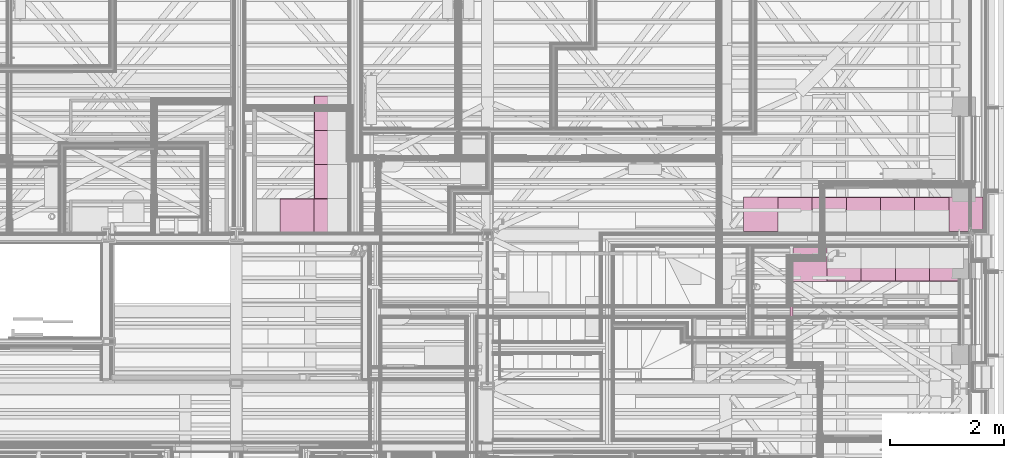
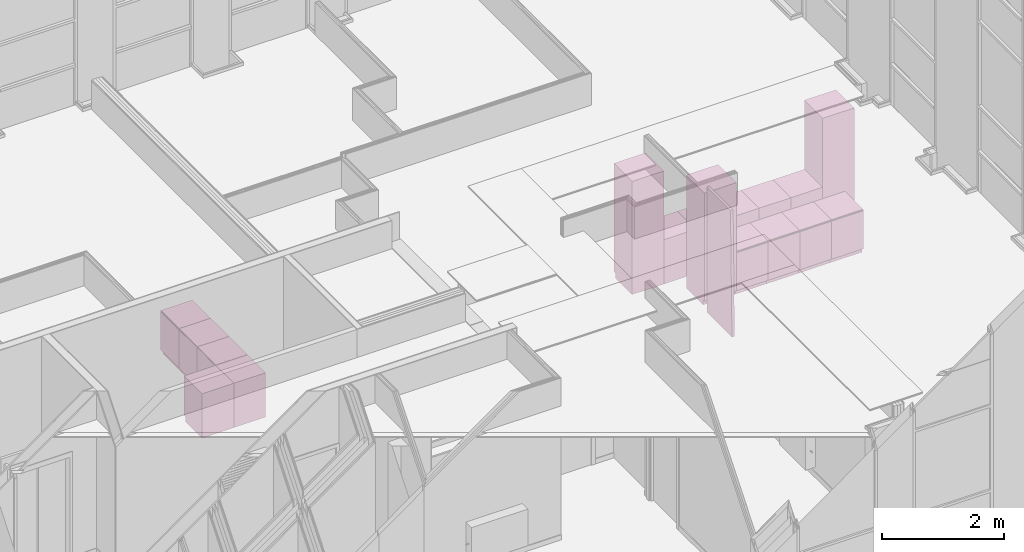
# One storey, part 182 of 183: 18 furnishings.
"""IFC2X3 building model written with IfcOpenShell, lengths in metres."""

from ifc_helpers import new_model, entity, si_unit, converted_unit, derived_unit, money_unit, direction, frame, origin_with_axes, place, context, subcontext, project, spatial, faceted_brep, material, type_object, element, save


model = new_model("IFC2X3")

# Units and contexts
model_context = context("Model", 3, precision=1e-05, world=origin_with_axes(), true_north=direction((0.0, 1.0)))
body_context = subcontext(model_context, "Body", "Model", "MODEL_VIEW", scale=1.0)
ifc_project = project(units=[si_unit("LENGTHUNIT", "METRE"), si_unit("AREAUNIT", "SQUARE_METRE"), si_unit("VOLUMEUNIT", "CUBIC_METRE"), si_unit("ABSORBEDDOSEUNIT", "GRAY"), si_unit("AMOUNTOFSUBSTANCEUNIT", "MOLE"), si_unit("DOSEEQUIVALENTUNIT", "SIEVERT"), si_unit("ELECTRICCAPACITANCEUNIT", "FARAD"), si_unit("ELECTRICCHARGEUNIT", "COULOMB"), si_unit("ELECTRICCONDUCTANCEUNIT", "SIEMENS"), si_unit("ELECTRICCURRENTUNIT", "AMPERE"), si_unit("ELECTRICRESISTANCEUNIT", "OHM"), si_unit("ELECTRICVOLTAGEUNIT", "VOLT"), si_unit("ENERGYUNIT", "JOULE"), si_unit("FORCEUNIT", "NEWTON"), si_unit("FREQUENCYUNIT", "HERTZ"), si_unit("ILLUMINANCEUNIT", "LUX"), si_unit("INDUCTANCEUNIT", "HENRY"), si_unit("LUMINOUSFLUXUNIT", "LUMEN"), si_unit("LUMINOUSINTENSITYUNIT", "CANDELA"), si_unit("MAGNETICFLUXDENSITYUNIT", "TESLA"), si_unit("MAGNETICFLUXUNIT", "WEBER"), si_unit("MASSUNIT", "GRAM"), converted_unit("PLANEANGLEUNIT", "degree", entity("IfcReal", 0.0174532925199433), si_unit("PLANEANGLEUNIT", "RADIAN"), dimensions=[0, 0, 0, 0, 0, 0, 0]), si_unit("POWERUNIT", "WATT"), si_unit("PRESSUREUNIT", "PASCAL"), si_unit("RADIOACTIVITYUNIT", "BECQUEREL"), si_unit("SOLIDANGLEUNIT", "STERADIAN"), si_unit("THERMODYNAMICTEMPERATUREUNIT", "KELVIN"), si_unit("TIMEUNIT", "SECOND"), derived_unit("ACCELERATIONUNIT", [(si_unit("LENGTHUNIT", "METRE"), 1), (si_unit("TIMEUNIT", "SECOND"), -2)]), derived_unit("ANGULARVELOCITYUNIT", [(converted_unit("PLANEANGLEUNIT", "degree", entity("IfcReal", 0.0174532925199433), si_unit("PLANEANGLEUNIT", "RADIAN"), dimensions=[0, 0, 0, 0, 0, 0, 0]), 1), (si_unit("TIMEUNIT", "SECOND"), -1)]), derived_unit("CURVATUREUNIT", [(converted_unit("PLANEANGLEUNIT", "degree", entity("IfcReal", 0.0174532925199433), si_unit("PLANEANGLEUNIT", "RADIAN"), dimensions=[0, 0, 0, 0, 0, 0, 0]), 1), (si_unit("LENGTHUNIT", "METRE"), -1)]), derived_unit("DYNAMICVISCOSITYUNIT", [(si_unit("PRESSUREUNIT", "PASCAL"), 1), (si_unit("TIMEUNIT", "SECOND"), 1)]), derived_unit("HEATFLUXDENSITYUNIT", [(si_unit("POWERUNIT", "WATT"), 1), (si_unit("LENGTHUNIT", "METRE"), -2)]), derived_unit("HEATINGVALUEUNIT", [(si_unit("ENERGYUNIT", "JOULE"), 1), (si_unit("MASSUNIT", "GRAM"), -1)]), derived_unit("INTEGERCOUNTRATEUNIT", [(si_unit("TIMEUNIT", "SECOND"), -1)]), derived_unit("IONCONCENTRATIONUNIT", [(si_unit("MASSUNIT", "GRAM"), 1), (si_unit("VOLUMEUNIT", "CUBIC_METRE"), -1)]), derived_unit("ISOTHERMALMOISTURECAPACITYUNIT", [(si_unit("VOLUMEUNIT", "CUBIC_METRE"), 1), (si_unit("MASSUNIT", "GRAM"), -1)]), derived_unit("KINEMATICVISCOSITYUNIT", [(si_unit("AREAUNIT", "SQUARE_METRE"), 1), (si_unit("TIMEUNIT", "SECOND"), -1)]), derived_unit("LINEARFORCEUNIT", [(si_unit("FORCEUNIT", "NEWTON"), 1), (si_unit("LENGTHUNIT", "METRE"), -1)]), derived_unit("LINEARMOMENTUNIT", [(si_unit("FORCEUNIT", "NEWTON"), 1), (si_unit("LENGTHUNIT", "METRE"), -1)]), derived_unit("LINEARSTIFFNESSUNIT", [(si_unit("FORCEUNIT", "NEWTON"), 1), (si_unit("LENGTHUNIT", "METRE"), -1)]), derived_unit("LINEARVELOCITYUNIT", [(si_unit("LENGTHUNIT", "METRE"), 1), (si_unit("TIMEUNIT", "SECOND"), -1)]), derived_unit("LUMINOUSINTENSITYDISTRIBUTIONUNIT", [(si_unit("LUMINOUSINTENSITYUNIT", "CANDELA"), 1), (si_unit("LUMINOUSFLUXUNIT", "LUMEN"), -1)]), derived_unit("MASSDENSITYUNIT", [(si_unit("MASSUNIT", "GRAM"), 1), (si_unit("VOLUMEUNIT", "CUBIC_METRE"), -1)]), derived_unit("MASSFLOWRATEUNIT", [(si_unit("MASSUNIT", "GRAM"), 1), (si_unit("TIMEUNIT", "SECOND"), -1)]), derived_unit("MASSPERLENGTHUNIT", [(si_unit("MASSUNIT", "GRAM"), 1), (si_unit("LENGTHUNIT", "METRE"), -1)]), derived_unit("MODULUSOFELASTICITYUNIT", [(si_unit("FORCEUNIT", "NEWTON"), 1), (si_unit("AREAUNIT", "SQUARE_METRE"), -1)]), derived_unit("MODULUSOFLINEARSUBGRADEREACTIONUNIT", [(si_unit("FORCEUNIT", "NEWTON"), 1), (si_unit("LENGTHUNIT", "METRE"), -2)]), derived_unit("MODULUSOFROTATIONALSUBGRADEREACTIONUNIT", [(si_unit("FORCEUNIT", "NEWTON"), 1), (si_unit("LENGTHUNIT", "METRE"), 1)]), derived_unit("MODULUSOFSUBGRADEREACTIONUNIT", [(si_unit("FORCEUNIT", "NEWTON"), 1), (si_unit("VOLUMEUNIT", "CUBIC_METRE"), -1)]), derived_unit("MOISTUREDIFFUSIVITYUNIT", [(si_unit("VOLUMEUNIT", "CUBIC_METRE"), 1), (si_unit("TIMEUNIT", "SECOND"), -1)]), derived_unit("MOLECULARWEIGHTUNIT", [(si_unit("MASSUNIT", "GRAM"), 1), (si_unit("AMOUNTOFSUBSTANCEUNIT", "MOLE"), -1)]), derived_unit("PLANARFORCEUNIT", [(si_unit("FORCEUNIT", "NEWTON"), 1), (si_unit("LENGTHUNIT", "METRE"), -2)]), derived_unit("ROTATIONALFREQUENCYUNIT", [(si_unit("TIMEUNIT", "SECOND"), -1)]), derived_unit("ROTATIONALMASSUNIT", [(si_unit("MASSUNIT", "GRAM"), 1), (si_unit("LENGTHUNIT", "METRE"), 2)]), derived_unit("ROTATIONALSTIFFNESSUNIT", [(si_unit("FORCEUNIT", "NEWTON"), 1), (si_unit("LENGTHUNIT", "METRE"), 1), (converted_unit("PLANEANGLEUNIT", "degree", entity("IfcReal", 0.0174532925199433), si_unit("PLANEANGLEUNIT", "RADIAN"), dimensions=[0, 0, 0, 0, 0, 0, 0]), -1)]), derived_unit("SECTIONAREAINTEGRALUNIT", [(si_unit("LENGTHUNIT", "METRE"), 5)]), derived_unit("SECTIONMODULUSUNIT", [(si_unit("LENGTHUNIT", "METRE"), 3)]), derived_unit("SHEARMODULUSUNIT", [(si_unit("FORCEUNIT", "NEWTON"), 1), (si_unit("AREAUNIT", "SQUARE_METRE"), -1)]), derived_unit("SOUNDPOWERUNIT", [(si_unit("ENERGYUNIT", "JOULE"), 1), (si_unit("TIMEUNIT", "SECOND"), -1)]), derived_unit("SPECIFICHEATCAPACITYUNIT", [(si_unit("FORCEUNIT", "NEWTON"), 1), (si_unit("MASSUNIT", "GRAM"), -1), (si_unit("THERMODYNAMICTEMPERATUREUNIT", "KELVIN"), -1)]), derived_unit("TEMPERATUREGRADIENTUNIT", [(si_unit("THERMODYNAMICTEMPERATUREUNIT", "KELVIN"), 1), (si_unit("LENGTHUNIT", "METRE"), -1)]), derived_unit("THERMALADMITTANCEUNIT", [(si_unit("POWERUNIT", "WATT"), 1), (si_unit("AREAUNIT", "SQUARE_METRE"), -1), (si_unit("THERMODYNAMICTEMPERATUREUNIT", "KELVIN"), -1)]), derived_unit("THERMALCONDUCTANCEUNIT", [(si_unit("POWERUNIT", "WATT"), 1), (si_unit("LENGTHUNIT", "METRE"), -1), (si_unit("THERMODYNAMICTEMPERATUREUNIT", "KELVIN"), -1)]), derived_unit("THERMALEXPANSIONCOEFFICIENTUNIT", [(si_unit("THERMODYNAMICTEMPERATUREUNIT", "KELVIN"), -1)]), derived_unit("THERMALRESISTANCEUNIT", [(si_unit("AREAUNIT", "SQUARE_METRE"), 1), (si_unit("POWERUNIT", "WATT"), -1)]), derived_unit("THERMALTRANSMITTANCEUNIT", [(si_unit("POWERUNIT", "WATT"), 1), (si_unit("AREAUNIT", "SQUARE_METRE"), -1), (si_unit("THERMODYNAMICTEMPERATUREUNIT", "KELVIN"), -1)]), derived_unit("TORQUEUNIT", [(si_unit("FORCEUNIT", "NEWTON"), 1), (si_unit("LENGTHUNIT", "METRE"), 1)]), derived_unit("VAPORPERMEABILITYUNIT", [(si_unit("MASSUNIT", "GRAM"), 1), (si_unit("TIMEUNIT", "SECOND"), -1)]), derived_unit("VOLUMETRICFLOWRATEUNIT", [(si_unit("VOLUMEUNIT", "CUBIC_METRE"), 1), (si_unit("TIMEUNIT", "SECOND"), -1)]), derived_unit("WARPINGCONSTANTUNIT", [(si_unit("LENGTHUNIT", "METRE"), 6)]), derived_unit("WARPINGMOMENTUNIT", [(si_unit("FORCEUNIT", "NEWTON"), 1), (si_unit("LENGTHUNIT", "METRE"), 2)]), money_unit("GBP")], contexts=[model_context])

# Site, building, storey, space
site_placement = place(None, origin_with_axes())
site = spatial("IfcSite", under=ifc_project, at=site_placement, Name="Site", CompositionType="ELEMENT")
building_placement = place(site_placement, origin_with_axes())
building = spatial("IfcBuilding", under=site, at=building_placement, Name="Building01", CompositionType="ELEMENT")
storey_placement = place(building_placement, frame((0.0, 0.0, 5.15), z_axis=(0.0, 0.0, 1.0), x_axis=(1.0, 0.0, 0.0)))
storey = spatial("IfcBuildingStorey", under=building, at=storey_placement, Name="1F", CompositionType="ELEMENT", Elevation=5.15)
space_1_placement = place(storey_placement, frame((15.83, 8.82, 0.017975), z_axis=(0.0, 0.0, 1.0), x_axis=(0.0, -1.0, 0.0)))
space_1 = spatial("IfcSpace", under=storey, at=space_1_placement, Name="02", CompositionType="ELEMENT", InteriorOrExteriorSpace="NOTDEFINED")

# Furnishing
ifc_material = material(Name="A_BSUK_StorageScreening_Ffe")
furniture_type_1 = type_object("IfcFurnitureType", Name="SHE_A-Kitchenunit-Tall")
placement = place(storey_placement, frame((0.0, 0.0, -5.15), z_axis=(0.0, 0.0, 1.0), x_axis=(1.0, 0.0, 0.0)))
element("IfcFurnishingElement", 1, at=placement, inside=space_1, type_object=furniture_type_1, material=ifc_material, Name="02", ObjectType="SHE_A-Kitchenunit-Tall", context=body_context, shape_type="Brep", body=[
    faceted_brep([(23.009999, 8.863, 7.414), (22.409999, 8.863, 7.414), (22.409999, 8.863, 5.154), (23.009999, 8.863, 5.154), (22.409999, 9.463, 7.414), (22.409999, 9.463, 5.254), (22.409999, 9.413, 5.254), (22.409999, 9.413, 5.154), (23.009999, 9.413, 5.254), (23.009999, 9.413, 5.154), (23.009999, 9.463, 5.254), (23.009999, 9.463, 7.414)], [[[0, 1, 2, 3]], [[1, 4, 5, 6, 7, 2]], [[8, 9, 7, 6]], [[8, 10, 11, 0, 3, 9]], [[2, 7, 9, 3]], [[5, 4, 11, 10]], [[11, 4, 1, 0]], [[6, 5, 10, 8]]]),
])

# Space
space_2_placement = place(storey_placement, frame((22.624794, 8.82, 0.017975), z_axis=(0.0, 0.0, 1.0), x_axis=(1.0, 0.0, 0.0)))
space_2 = spatial("IfcSpace", under=storey, at=space_2_placement, Name="k/d/l", CompositionType="ELEMENT", InteriorOrExteriorSpace="NOTDEFINED")

# Furnishing
element("IfcFurnishingElement", 2, at=placement, inside=space_2, type_object=furniture_type_1, material=ifc_material, Name="02", ObjectType="SHE_A-Kitchenunit-Tall", context=body_context, shape_type="Brep", body=[
    faceted_brep([(26.609999, 8.863, 7.414), (26.009999, 8.863, 7.414), (26.009999, 8.863, 5.154), (26.609999, 8.863, 5.154), (26.009999, 9.463, 7.414), (26.009999, 9.463, 5.254), (26.009999, 9.413, 5.254), (26.009999, 9.413, 5.154), (26.609999, 9.413, 5.254), (26.609999, 9.413, 5.154), (26.609999, 9.463, 5.254), (26.609999, 9.463, 7.414)], [[[0, 1, 2, 3]], [[1, 4, 5, 6, 7, 2]], [[8, 9, 7, 6]], [[8, 10, 11, 0, 3, 9]], [[2, 7, 9, 3]], [[5, 4, 11, 10]], [[11, 4, 1, 0]], [[6, 5, 10, 8]]]),
])

# Space
space_3_placement = place(storey_placement, frame((20.122661, 5.205, 0.017975), z_axis=(0.0, 0.0, 1.0), x_axis=(1.0, 0.0, 0.0)))
space_3 = spatial("IfcSpace", under=storey, at=space_3_placement, Name="03", CompositionType="ELEMENT", InteriorOrExteriorSpace="NOTDEFINED")

# Furnishing
element("IfcFurnishingElement", 3, at=placement, inside=space_3, type_object=furniture_type_1, material=ifc_material, Name="03", ObjectType="SHE_A-Kitchenunit-Tall", context=body_context, shape_type="Brep", body=[
    faceted_brep([(23.871529, 8.58, 5.154), (23.271529, 8.58, 5.154), (23.271529, 8.58, 7.414), (23.871529, 8.58, 7.414), (23.271529, 8.03, 5.154), (23.271529, 8.03, 5.254), (23.271529, 7.98, 5.254), (23.271529, 7.98, 7.414), (23.871529, 8.03, 5.154), (23.871529, 8.03, 5.254), (23.871529, 7.98, 7.414), (23.871529, 7.98, 5.254)], [[[0, 1, 2, 3]], [[1, 4, 5, 6, 7, 2]], [[5, 4, 8, 9]], [[8, 0, 3, 10, 11, 9]], [[0, 8, 4, 1]], [[11, 10, 7, 6]], [[3, 2, 7, 10]], [[9, 11, 6, 5]]]),
])

# Space
space_4_placement = place(storey_placement, frame((7.289669, 14.582, 0.017975), z_axis=(0.0, 0.0, 1.0), x_axis=(0.0, -1.0, 0.0)))
space_4 = spatial("IfcSpace", under=storey, at=space_4_placement, Name="08", CompositionType="ELEMENT", InteriorOrExteriorSpace="NOTDEFINED")

# Furnishings
furniture_type_2 = type_object("IfcFurnitureType", Name="SHE_A-Kitchenunit-Base")
element("IfcFurnishingElement", 4, at=placement, inside=space_4, type_object=furniture_type_2, material=ifc_material, Name="08", ObjectType="SHE_A-Kitchenunit-Base", context=body_context, shape_type="Brep", body=[
    faceted_brep([(14.868132, 8.835, 6.039), (14.268132, 8.835, 6.039), (14.268132, 8.835, 5.154), (14.868132, 8.835, 5.154), (14.268132, 9.427929, 6.039), (14.268132, 9.435, 6.031929), (14.268132, 9.435, 6.021071), (14.268132, 9.427929, 6.014), (14.268132, 9.435, 6.014), (14.268132, 9.435, 5.254), (14.268132, 9.385, 5.254), (14.268132, 9.385, 5.154), (14.868132, 9.385, 5.254), (14.868132, 9.385, 5.154), (14.868132, 9.435, 5.254), (14.868132, 9.435, 6.014), (14.868132, 9.427929, 6.014), (14.868132, 9.435, 6.021071), (14.868132, 9.435, 6.031929), (14.868132, 9.427929, 6.039)], [[[0, 1, 2, 3]], [[1, 4, 5, 6, 7, 8, 9, 10, 11, 2]], [[12, 13, 11, 10]], [[12, 14, 15, 16, 17, 18, 19, 0, 3, 13]], [[2, 11, 13, 3]], [[7, 16, 15, 8]], [[9, 8, 15, 14]], [[10, 9, 14, 12]], [[5, 18, 17, 6]], [[19, 4, 1, 0]], [[6, 17, 16, 7]], [[4, 19, 18, 5]]]),
])
element("IfcFurnishingElement", 5, at=placement, inside=space_4, type_object=furniture_type_2, material=ifc_material, Name="08", ObjectType="SHE_A-Kitchenunit-Base", context=body_context, shape_type="Brep", body=[
    faceted_brep([(15.468132, 8.835, 6.039), (14.868132, 8.835, 6.039), (14.868132, 8.835, 5.154), (15.468132, 8.835, 5.154), (14.868132, 9.427929, 6.039), (14.868132, 9.435, 6.031929), (14.868132, 9.435, 6.021071), (14.868132, 9.427929, 6.014), (14.868132, 9.435, 6.014), (14.868132, 9.435, 5.254), (14.868132, 9.385, 5.254), (14.868132, 9.385, 5.154), (15.468132, 9.385, 5.254), (15.468132, 9.385, 5.154), (15.468132, 9.435, 5.254), (15.468132, 9.435, 6.014), (15.468132, 9.427929, 6.014), (15.468132, 9.435, 6.021071), (15.468132, 9.435, 6.031929), (15.468132, 9.427929, 6.039)], [[[0, 1, 2, 3]], [[1, 4, 5, 6, 7, 8, 9, 10, 11, 2]], [[12, 13, 11, 10]], [[12, 14, 15, 16, 17, 18, 19, 0, 3, 13]], [[2, 11, 13, 3]], [[7, 16, 15, 8]], [[9, 8, 15, 14]], [[10, 9, 14, 12]], [[5, 18, 17, 6]], [[19, 4, 1, 0]], [[6, 17, 16, 7]], [[4, 19, 18, 5]]]),
])
element("IfcFurnishingElement", 6, at=placement, inside=space_4, type_object=furniture_type_2, material=ifc_material, Name="08", ObjectType="SHE_A-Kitchenunit-Base", context=body_context, shape_type="Brep", body=[
    faceted_brep([(15.468132, 10.035, 6.039), (15.468132, 9.435, 6.039), (15.468132, 9.435, 5.154), (15.468132, 10.035, 5.154), (14.875203, 9.435, 6.039), (14.868132, 9.435, 6.031929), (14.868132, 9.435, 6.021071), (14.875203, 9.435, 6.014), (14.868132, 9.435, 6.014), (14.868132, 9.435, 5.254), (14.918132, 9.435, 5.254), (14.918132, 9.435, 5.154), (14.918132, 10.035, 5.254), (14.918132, 10.035, 5.154), (14.868132, 10.035, 5.254), (14.868132, 10.035, 6.014), (14.875203, 10.035, 6.014), (14.868132, 10.035, 6.021071), (14.868132, 10.035, 6.031929), (14.875203, 10.035, 6.039)], [[[0, 1, 2, 3]], [[1, 4, 5, 6, 7, 8, 9, 10, 11, 2]], [[12, 13, 11, 10]], [[12, 14, 15, 16, 17, 18, 19, 0, 3, 13]], [[2, 11, 13, 3]], [[7, 16, 15, 8]], [[9, 8, 15, 14]], [[10, 9, 14, 12]], [[5, 18, 17, 6]], [[19, 4, 1, 0]], [[6, 17, 16, 7]], [[4, 19, 18, 5]]]),
])
element("IfcFurnishingElement", 7, at=placement, inside=space_4, type_object=furniture_type_2, material=ifc_material, Name="08", ObjectType="SHE_A-Kitchenunit-Base", context=body_context, shape_type="Brep", body=[
    faceted_brep([(15.468132, 10.635, 6.039), (15.468132, 10.035, 6.039), (15.468132, 10.035, 5.154), (15.468132, 10.635, 5.154), (14.875203, 10.035, 6.039), (14.868132, 10.035, 6.031929), (14.868132, 10.035, 6.021071), (14.875203, 10.035, 6.014), (14.868132, 10.035, 6.014), (14.868132, 10.035, 5.254), (14.918132, 10.035, 5.254), (14.918132, 10.035, 5.154), (14.918132, 10.635, 5.254), (14.918132, 10.635, 5.154), (14.868132, 10.635, 5.254), (14.868132, 10.635, 6.014), (14.875203, 10.635, 6.014), (14.868132, 10.635, 6.021071), (14.868132, 10.635, 6.031929), (14.875203, 10.635, 6.039)], [[[0, 1, 2, 3]], [[1, 4, 5, 6, 7, 8, 9, 10, 11, 2]], [[12, 13, 11, 10]], [[12, 14, 15, 16, 17, 18, 19, 0, 3, 13]], [[2, 11, 13, 3]], [[7, 16, 15, 8]], [[9, 8, 15, 14]], [[10, 9, 14, 12]], [[5, 18, 17, 6]], [[19, 4, 1, 0]], [[6, 17, 16, 7]], [[4, 19, 18, 5]]]),
])
element("IfcFurnishingElement", 8, at=placement, inside=space_4, type_object=furniture_type_2, material=ifc_material, Name="08", ObjectType="SHE_A-Kitchenunit-Base", context=body_context, shape_type="Brep", body=[
    faceted_brep([(15.468132, 11.235, 6.039), (15.468132, 10.635, 6.039), (15.468132, 10.635, 5.154), (15.468132, 11.235, 5.154), (14.875203, 10.635, 6.039), (14.868132, 10.635, 6.031929), (14.868132, 10.635, 6.021071), (14.875203, 10.635, 6.014), (14.868132, 10.635, 6.014), (14.868132, 10.635, 5.254), (14.918132, 10.635, 5.254), (14.918132, 10.635, 5.154), (14.918132, 11.235, 5.254), (14.918132, 11.235, 5.154), (14.868132, 11.235, 5.254), (14.868132, 11.235, 6.014), (14.875203, 11.235, 6.014), (14.868132, 11.235, 6.021071), (14.868132, 11.235, 6.031929), (14.875203, 11.235, 6.039)], [[[0, 1, 2, 3]], [[1, 4, 5, 6, 7, 8, 9, 10, 11, 2]], [[12, 13, 11, 10]], [[12, 14, 15, 16, 17, 18, 19, 0, 3, 13]], [[2, 11, 13, 3]], [[7, 16, 15, 8]], [[9, 8, 15, 14]], [[10, 9, 14, 12]], [[5, 18, 17, 6]], [[19, 4, 1, 0]], [[6, 17, 16, 7]], [[4, 19, 18, 5]]]),
])
element("IfcFurnishingElement", 9, at=placement, inside=space_2, type_object=furniture_type_2, material=ifc_material, Name="02", ObjectType="SHE_A-Kitchenunit-Base", context=body_context, shape_type="Brep", body=[
    faceted_brep([(23.609999, 8.863, 6.039), (23.009999, 8.863, 6.039), (23.009999, 8.863, 5.154), (23.609999, 8.863, 5.154), (23.009999, 9.455929, 6.039), (23.009999, 9.463, 6.031929), (23.009999, 9.463, 6.021071), (23.009999, 9.455929, 6.014), (23.009999, 9.463, 6.014), (23.009999, 9.463, 5.254), (23.009999, 9.413, 5.254), (23.009999, 9.413, 5.154), (23.609999, 9.413, 5.254), (23.609999, 9.413, 5.154), (23.609999, 9.463, 5.254), (23.609999, 9.463, 6.014), (23.609999, 9.455929, 6.014), (23.609999, 9.463, 6.021071), (23.609999, 9.463, 6.031929), (23.609999, 9.455929, 6.039)], [[[0, 1, 2, 3]], [[1, 4, 5, 6, 7, 8, 9, 10, 11, 2]], [[12, 13, 11, 10]], [[12, 14, 15, 16, 17, 18, 19, 0, 3, 13]], [[2, 11, 13, 3]], [[7, 16, 15, 8]], [[9, 8, 15, 14]], [[10, 9, 14, 12]], [[5, 18, 17, 6]], [[19, 4, 1, 0]], [[6, 17, 16, 7]], [[4, 19, 18, 5]]]),
])
element("IfcFurnishingElement", 10, at=placement, inside=space_2, type_object=furniture_type_2, material=ifc_material, Name="02", ObjectType="SHE_A-Kitchenunit-Base", context=body_context, shape_type="Brep", body=[
    faceted_brep([(24.209999, 8.863, 6.039), (23.609999, 8.863, 6.039), (23.609999, 8.863, 5.154), (24.209999, 8.863, 5.154), (23.609999, 9.455929, 6.039), (23.609999, 9.463, 6.031929), (23.609999, 9.463, 6.021071), (23.609999, 9.455929, 6.014), (23.609999, 9.463, 6.014), (23.609999, 9.463, 5.254), (23.609999, 9.413, 5.254), (23.609999, 9.413, 5.154), (24.209999, 9.413, 5.254), (24.209999, 9.413, 5.154), (24.209999, 9.463, 5.254), (24.209999, 9.463, 6.014), (24.209999, 9.455929, 6.014), (24.209999, 9.463, 6.021071), (24.209999, 9.463, 6.031929), (24.209999, 9.455929, 6.039)], [[[0, 1, 2, 3]], [[1, 4, 5, 6, 7, 8, 9, 10, 11, 2]], [[12, 13, 11, 10]], [[12, 14, 15, 16, 17, 18, 19, 0, 3, 13]], [[2, 11, 13, 3]], [[7, 16, 15, 8]], [[9, 8, 15, 14]], [[10, 9, 14, 12]], [[5, 18, 17, 6]], [[19, 4, 1, 0]], [[6, 17, 16, 7]], [[4, 19, 18, 5]]]),
])
element("IfcFurnishingElement", 11, at=placement, inside=space_2, type_object=furniture_type_2, material=ifc_material, Name="02", ObjectType="SHE_A-Kitchenunit-Base", context=body_context, shape_type="Brep", body=[
    faceted_brep([(24.809999, 8.863, 6.039), (24.209999, 8.863, 6.039), (24.209999, 8.863, 5.154), (24.809999, 8.863, 5.154), (24.209999, 9.455929, 6.039), (24.209999, 9.463, 6.031929), (24.209999, 9.463, 6.021071), (24.209999, 9.455929, 6.014), (24.209999, 9.463, 6.014), (24.209999, 9.463, 5.254), (24.209999, 9.413, 5.254), (24.209999, 9.413, 5.154), (24.809999, 9.413, 5.254), (24.809999, 9.413, 5.154), (24.809999, 9.463, 5.254), (24.809999, 9.463, 6.014), (24.809999, 9.455929, 6.014), (24.809999, 9.463, 6.021071), (24.809999, 9.463, 6.031929), (24.809999, 9.455929, 6.039)], [[[0, 1, 2, 3]], [[1, 4, 5, 6, 7, 8, 9, 10, 11, 2]], [[12, 13, 11, 10]], [[12, 14, 15, 16, 17, 18, 19, 0, 3, 13]], [[2, 11, 13, 3]], [[7, 16, 15, 8]], [[9, 8, 15, 14]], [[10, 9, 14, 12]], [[5, 18, 17, 6]], [[19, 4, 1, 0]], [[6, 17, 16, 7]], [[4, 19, 18, 5]]]),
])
element("IfcFurnishingElement", 12, at=placement, inside=space_1, type_object=furniture_type_2, material=ifc_material, Name="02", ObjectType="SHE_A-Kitchenunit-Base", context=body_context, shape_type="Brep", body=[
    faceted_brep([(25.409999, 8.863, 6.039), (24.809999, 8.863, 6.039), (24.809999, 8.863, 5.154), (25.409999, 8.863, 5.154), (24.809999, 9.455929, 6.039), (24.809999, 9.463, 6.031929), (24.809999, 9.463, 6.021071), (24.809999, 9.455929, 6.014), (24.809999, 9.463, 6.014), (24.809999, 9.463, 5.254), (24.809999, 9.413, 5.254), (24.809999, 9.413, 5.154), (25.409999, 9.413, 5.254), (25.409999, 9.413, 5.154), (25.409999, 9.463, 5.254), (25.409999, 9.463, 6.014), (25.409999, 9.455929, 6.014), (25.409999, 9.463, 6.021071), (25.409999, 9.463, 6.031929), (25.409999, 9.455929, 6.039)], [[[0, 1, 2, 3]], [[1, 4, 5, 6, 7, 8, 9, 10, 11, 2]], [[12, 13, 11, 10]], [[12, 14, 15, 16, 17, 18, 19, 0, 3, 13]], [[2, 11, 13, 3]], [[7, 16, 15, 8]], [[9, 8, 15, 14]], [[10, 9, 14, 12]], [[5, 18, 17, 6]], [[19, 4, 1, 0]], [[6, 17, 16, 7]], [[4, 19, 18, 5]]]),
])
element("IfcFurnishingElement", 13, at=placement, inside=space_1, type_object=furniture_type_2, material=ifc_material, Name="02", ObjectType="SHE_A-Kitchenunit-Base", context=body_context, shape_type="Brep", body=[
    faceted_brep([(26.009999, 8.863, 6.039), (25.409999, 8.863, 6.039), (25.409999, 8.863, 5.154), (26.009999, 8.863, 5.154), (25.409999, 9.455929, 6.039), (25.409999, 9.463, 6.031929), (25.409999, 9.463, 6.021071), (25.409999, 9.455929, 6.014), (25.409999, 9.463, 6.014), (25.409999, 9.463, 5.254), (25.409999, 9.413, 5.254), (25.409999, 9.413, 5.154), (26.009999, 9.413, 5.254), (26.009999, 9.413, 5.154), (26.009999, 9.463, 5.254), (26.009999, 9.463, 6.014), (26.009999, 9.455929, 6.014), (26.009999, 9.463, 6.021071), (26.009999, 9.463, 6.031929), (26.009999, 9.455929, 6.039)], [[[0, 1, 2, 3]], [[1, 4, 5, 6, 7, 8, 9, 10, 11, 2]], [[12, 13, 11, 10]], [[12, 14, 15, 16, 17, 18, 19, 0, 3, 13]], [[2, 11, 13, 3]], [[7, 16, 15, 8]], [[9, 8, 15, 14]], [[10, 9, 14, 12]], [[5, 18, 17, 6]], [[19, 4, 1, 0]], [[6, 17, 16, 7]], [[4, 19, 18, 5]]]),
])
element("IfcFurnishingElement", 14, at=placement, inside=space_3, type_object=furniture_type_2, material=ifc_material, Name="03", ObjectType="SHE_A-Kitchenunit-Base", context=body_context, shape_type="Brep", body=[
    faceted_brep([(25.671529, 8.58, 5.154), (25.071529, 8.58, 5.154), (25.071529, 8.58, 6.039), (25.671529, 8.58, 6.039), (25.071529, 8.03, 5.154), (25.071529, 8.03, 5.254), (25.071529, 7.98, 5.254), (25.071529, 7.98, 6.014), (25.071529, 7.987071, 6.014), (25.071529, 7.98, 6.021071), (25.071529, 7.98, 6.031929), (25.071529, 7.987071, 6.039), (25.671529, 8.03, 5.154), (25.671529, 8.03, 5.254), (25.671529, 7.987071, 6.039), (25.671529, 7.98, 6.031929), (25.671529, 7.98, 6.021071), (25.671529, 7.987071, 6.014), (25.671529, 7.98, 6.014), (25.671529, 7.98, 5.254)], [[[0, 1, 2, 3]], [[1, 4, 5, 6, 7, 8, 9, 10, 11, 2]], [[5, 4, 12, 13]], [[12, 0, 3, 14, 15, 16, 17, 18, 19, 13]], [[0, 12, 4, 1]], [[7, 18, 17, 8]], [[19, 18, 7, 6]], [[13, 19, 6, 5]], [[9, 16, 15, 10]], [[3, 2, 11, 14]], [[8, 17, 16, 9]], [[10, 15, 14, 11]]]),
])
element("IfcFurnishingElement", 15, at=placement, inside=space_3, type_object=furniture_type_2, material=ifc_material, Name="03", ObjectType="SHE_A-Kitchenunit-Base", context=body_context, shape_type="Brep", body=[
    faceted_brep([(25.071529, 8.58, 5.154), (24.471529, 8.58, 5.154), (24.471529, 8.58, 6.039), (25.071529, 8.58, 6.039), (24.471529, 8.03, 5.154), (24.471529, 8.03, 5.254), (24.471529, 7.98, 5.254), (24.471529, 7.98, 6.014), (24.471529, 7.987071, 6.014), (24.471529, 7.98, 6.021071), (24.471529, 7.98, 6.031929), (24.471529, 7.987071, 6.039), (25.071529, 8.03, 5.154), (25.071529, 8.03, 5.254), (25.071529, 7.987071, 6.039), (25.071529, 7.98, 6.031929), (25.071529, 7.98, 6.021071), (25.071529, 7.987071, 6.014), (25.071529, 7.98, 6.014), (25.071529, 7.98, 5.254)], [[[0, 1, 2, 3]], [[1, 4, 5, 6, 7, 8, 9, 10, 11, 2]], [[5, 4, 12, 13]], [[12, 0, 3, 14, 15, 16, 17, 18, 19, 13]], [[0, 12, 4, 1]], [[7, 18, 17, 8]], [[19, 18, 7, 6]], [[13, 19, 6, 5]], [[9, 16, 15, 10]], [[3, 2, 11, 14]], [[8, 17, 16, 9]], [[10, 15, 14, 11]]]),
])
element("IfcFurnishingElement", 16, at=placement, inside=space_3, type_object=furniture_type_2, material=ifc_material, Name="03", ObjectType="SHE_A-Kitchenunit-Base", context=body_context, shape_type="Brep", body=[
    faceted_brep([(24.471529, 8.58, 5.154), (23.871529, 8.58, 5.154), (23.871529, 8.58, 6.039), (24.471529, 8.58, 6.039), (23.871529, 8.03, 5.154), (23.871529, 8.03, 5.254), (23.871529, 7.98, 5.254), (23.871529, 7.98, 6.014), (23.871529, 7.987071, 6.014), (23.871529, 7.98, 6.021071), (23.871529, 7.98, 6.031929), (23.871529, 7.987071, 6.039), (24.471529, 8.03, 5.154), (24.471529, 8.03, 5.254), (24.471529, 7.987071, 6.039), (24.471529, 7.98, 6.031929), (24.471529, 7.98, 6.021071), (24.471529, 7.987071, 6.014), (24.471529, 7.98, 6.014), (24.471529, 7.98, 5.254)], [[[0, 1, 2, 3]], [[1, 4, 5, 6, 7, 8, 9, 10, 11, 2]], [[5, 4, 12, 13]], [[12, 0, 3, 14, 15, 16, 17, 18, 19, 13]], [[0, 12, 4, 1]], [[7, 18, 17, 8]], [[19, 18, 7, 6]], [[13, 19, 6, 5]], [[9, 16, 15, 10]], [[3, 2, 11, 14]], [[8, 17, 16, 9]], [[10, 15, 14, 11]]]),
])
element("IfcFurnishingElement", 17, at=placement, inside=space_3, type_object=furniture_type_2, material=ifc_material, Name="03", ObjectType="SHE_A-Kitchenunit-Base", context=body_context, shape_type="Brep", body=[
    faceted_brep([(26.271529, 8.58, 5.154), (25.671529, 8.58, 5.154), (25.671529, 8.58, 6.039), (26.271529, 8.58, 6.039), (25.671529, 8.03, 5.154), (25.671529, 8.03, 5.254), (25.671529, 7.98, 5.254), (25.671529, 7.98, 6.014), (25.671529, 7.987071, 6.014), (25.671529, 7.98, 6.021071), (25.671529, 7.98, 6.031929), (25.671529, 7.987071, 6.039), (26.271529, 8.03, 5.154), (26.271529, 8.03, 5.254), (26.271529, 7.987071, 6.039), (26.271529, 7.98, 6.031929), (26.271529, 7.98, 6.021071), (26.271529, 7.987071, 6.014), (26.271529, 7.98, 6.014), (26.271529, 7.98, 5.254)], [[[0, 1, 2, 3]], [[1, 4, 5, 6, 7, 8, 9, 10, 11, 2]], [[5, 4, 12, 13]], [[12, 0, 3, 14, 15, 16, 17, 18, 19, 13]], [[0, 12, 4, 1]], [[7, 18, 17, 8]], [[19, 18, 7, 6]], [[13, 19, 6, 5]], [[9, 16, 15, 10]], [[3, 2, 11, 14]], [[8, 17, 16, 9]], [[10, 15, 14, 11]]]),
])
furniture_type_3 = type_object("IfcFurnitureType", Name="SHE_A-UtilityCupbord")
element("IfcFurnishingElement", 18, at=placement, inside=space_3, type_object=furniture_type_3, material=ifc_material, Name="03", ObjectType="SHE_A-UtilityCupbord", context=body_context, shape_type="Brep", body=[
    faceted_brep([(23.271529, 7.8225, 5.15), (23.271529, 7.0, 5.15), (23.221529, 7.0, 5.15), (23.221529, 7.8225, 5.15), (23.221529, 7.8225, 7.65), (23.221529, 7.05, 7.65), (23.271529, 7.05, 7.65), (23.271529, 7.8225, 7.65)], [[[0, 1, 2, 3]], [[4, 5, 6, 7]], [[0, 3, 4, 7]], [[1, 0, 7, 6]], [[2, 1, 6, 5]], [[4, 3, 2, 5]]]),
])

save(model, "model.ifc")
